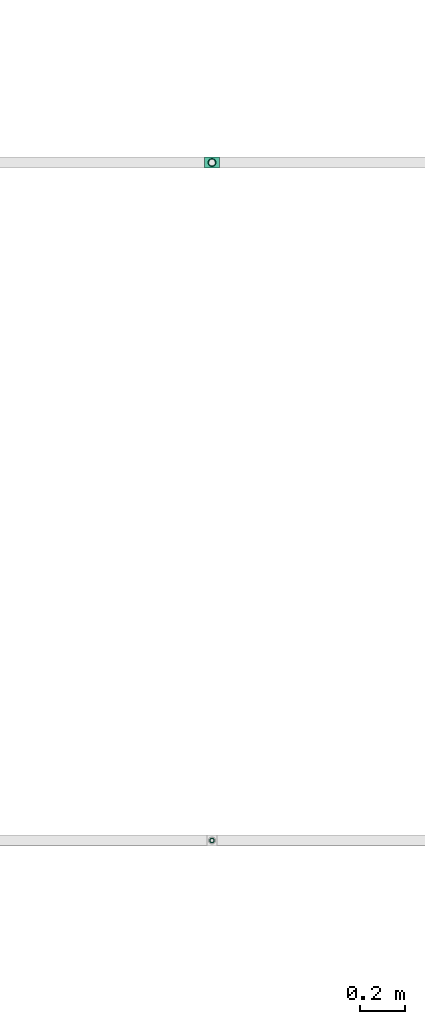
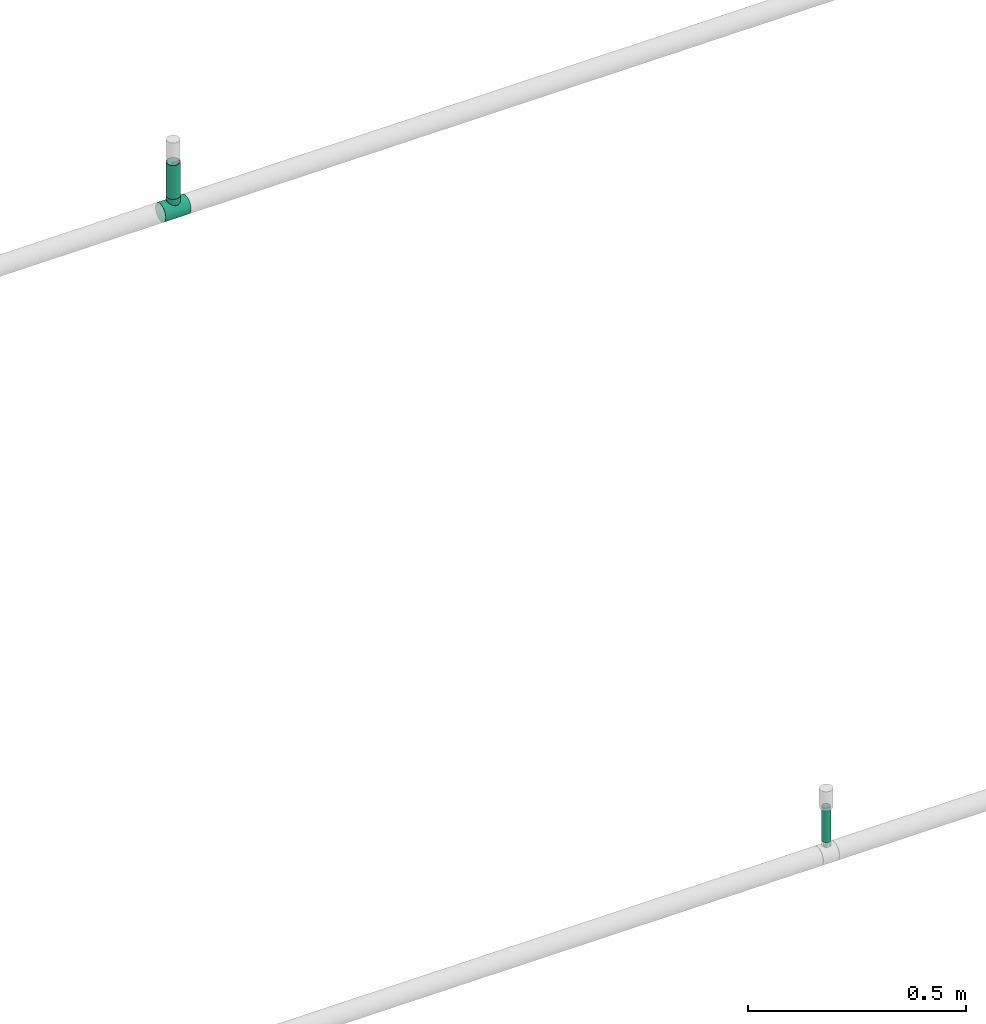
# One storey, part 3 of 14: 2 flow segments, 1 flow fitting.
"""IFC2X3 building model written with IfcOpenShell, lengths in millimetres."""

from ifc_helpers import new_model, entity, si_unit, converted_unit, derived_unit, direction, frame, origin_with_axes, origin_2d_with_axis, place, context, subcontext, project, spatial, hollow_circle, extrude, open_shell, surface_model, source, transform, mapped, type_object, element, save


model = new_model("IFC2X3")

# Units and contexts
model_context = context("Model", 3, precision=0.01, world=frame((0.0, 4.29681676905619e-09, 0.0)), true_north=direction((4.01073788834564e-13, 1.0)))
plan_context = context("Plan", 3, precision=0.01, world=frame((0.0, 4.29681676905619e-09, 0.0)), true_north=direction((4.01073788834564e-13, 1.0)))
body_context = subcontext(model_context, "Body", "Model", "MODEL_VIEW")
ifc_project = project(units=[converted_unit("PLANEANGLEUNIT", "DEGREE", entity("IfcPositiveLengthMeasure", 0.0174532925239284), si_unit("PLANEANGLEUNIT", "RADIAN"), dimensions=[0, 0, 0, 0, 0, 0, 0]), si_unit("AREAUNIT", "SQUARE_METRE"), si_unit("LENGTHUNIT", "METRE", prefix="MILLI"), si_unit("MASSUNIT", "GRAM", prefix="KILO"), si_unit("POWERUNIT", "WATT"), si_unit("PRESSUREUNIT", "PASCAL"), si_unit("FORCEUNIT", "NEWTON", prefix="KILO"), si_unit("ELECTRICVOLTAGEUNIT", "VOLT"), si_unit("ELECTRICCURRENTUNIT", "AMPERE"), si_unit("THERMODYNAMICTEMPERATUREUNIT", "DEGREE_CELSIUS"), si_unit("TIMEUNIT", "SECOND"), si_unit("VOLUMEUNIT", "CUBIC_METRE"), derived_unit("LINEARVELOCITYUNIT", [(si_unit("LENGTHUNIT", "METRE"), 1), (si_unit("TIMEUNIT", "SECOND"), -1)]), derived_unit("VOLUMETRICFLOWRATEUNIT", [(si_unit("VOLUMEUNIT", "CUBIC_METRE"), 1), (si_unit("TIMEUNIT", "SECOND"), -1)]), derived_unit("THERMALTRANSMITTANCEUNIT", [(si_unit("POWERUNIT", "WATT"), 1), (si_unit("THERMODYNAMICTEMPERATUREUNIT", "KELVIN"), -1), (si_unit("AREAUNIT", "SQUARE_METRE"), -1)]), derived_unit("SOUNDPRESSUREUNIT", [(si_unit("PRESSUREUNIT", "PASCAL"), 1)])], contexts=[model_context, plan_context])

# Site, building, storey
site_placement = place(None, frame((0.0, -4.29681676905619e-09, 0.0), z_axis=(0.0, 0.0, 1.0), x_axis=(1.0, 0.0, 0.0)))
site = spatial("IfcSite", under=ifc_project, at=site_placement, CompositionType="ELEMENT")
building_placement = place(site_placement, frame((0.0, 4.29681676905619e-09, 0.0), z_axis=(0.0, 0.0, 1.0), x_axis=(1.0, 0.0, 0.0)))
building = spatial("IfcBuilding", under=site, at=building_placement, Name="mc-building", CompositionType="ELEMENT")
storey_placement = place(building_placement, frame((0.0, 0.0, 204000.0), z_axis=(0.0, 0.0, 1.0), x_axis=(1.0, 0.0, 0.0)))
storey = spatial("IfcBuildingStorey", under=building, at=storey_placement, Name="Nivå D", CompositionType="ELEMENT", Elevation=204000.0)

# Flow fitting
pipe_fitting_type = type_object("IfcPipeFittingType", Name="magi_pipe_fe_tee_centric_90_NOR", PredefinedType="JUNCTION")
shared_shape_1 = source(origin_with_axes(), body_context, "Body", "SurfaceModel", [
    surface_model("IfcShellBasedSurfaceModel", [(-33.8, 0.0, -24.2), (-33.8, -6.26342, -23.37541), (-33.8, 6.26342, -23.37541), (-33.8, 12.1, -20.95781), (-33.8, 17.11198, -17.11198), (-33.8, 20.95781, -12.1), (-33.8, -23.37541, -6.26342), (-33.8, 23.37541, -6.26342), (-33.8, -17.11198, -17.11198), (-33.8, -20.95781, -12.1), (-33.8, -12.1, -20.95781), (-33.8, -24.2, 0.0), (-33.8, -23.37541, 6.26342), (-33.8, 20.95781, 12.1), (-33.8, 23.37541, 6.26342), (-33.8, 24.2, 0.0), (-33.8, 12.1, 20.95781), (-33.8, 17.11198, 17.11198), (-33.8, -17.11198, 17.11198), (-33.8, 6.26342, 23.37541), (-33.8, -20.95781, 12.1), (-33.8, -12.1, 20.95781), (-33.8, -6.26342, 23.37541), (-33.8, 0.0, 24.2), (33.8, 6.26342, -23.37541), (33.8, -6.26342, -23.37541), (33.8, 0.0, -24.2), (33.8, 17.11198, -17.11198), (33.8, 12.1, -20.95781), (33.8, -23.37541, -6.26342), (33.8, 20.95781, -12.1), (33.8, 23.37541, -6.26342), (33.8, -17.11198, -17.11198), (33.8, -12.1, -20.95781), (33.8, -20.95781, -12.1), (33.8, -24.2, 0.0), (33.8, 24.2, 0.0), (33.8, 23.37541, 6.26342), (33.8, 20.95781, 12.1), (33.8, -23.37541, 6.26342), (33.8, -17.11198, 17.11198), (33.8, 12.1, 20.95781), (33.8, 17.11198, 17.11198), (33.8, 6.26342, 23.37541), (33.8, -20.95781, 12.1), (33.8, -12.1, 20.95781), (33.8, 0.0, 24.2), (33.8, -6.26342, 23.37541), (15.81824, -23.45734, 5.94922), (16.9, -24.2, 0.0), (12.87025, -21.57947, 10.95293), (33.8, -19.0349, 14.60599), (8.52813, -19.30697, 14.59044), (3.03527, -17.5853, 16.6252), (-3.04044, -17.58619, 16.62425), (-8.52961, -19.30762, 14.58958), (-33.8, -19.0349, 14.60599), (-16.9, -24.2, 0.0), (-15.81885, -23.45775, 5.9476), (-12.87368, -21.58151, 10.9489), (3.03527, -17.5853, -16.6252), (33.8, -19.0349, -14.60599), (8.52813, -19.30697, -14.59044), (-8.52961, -19.30762, -14.58958), (-33.8, -19.0349, -14.60599), (12.87025, -21.57947, -10.95293), (-3.04044, -17.58619, -16.62425), (15.81824, -23.45734, -5.94922), (-12.87368, -21.58151, -10.9489), (-15.81885, -23.45775, -5.9476), (4.37404, -36.3, -16.32415), (-16.9, -36.3, 0.0), (0.0, -36.3, -16.9), (14.63583, -36.3, -8.45), (8.45, -36.3, -14.63583), (16.32415, -36.3, -4.37404), (11.9501, -36.3, -11.9501), (-11.9501, -36.3, -11.9501), (-8.45, -36.3, -14.63583), (-4.37404, -36.3, -16.32415), (-14.63583, -36.3, -8.45), (-16.32415, -36.3, -4.37404), (16.9, -36.3, 0.0), (8.45, -36.3, 14.63583), (16.32415, -36.3, 4.37404), (14.63583, -36.3, 8.45), (-8.45, -36.3, 14.63583), (11.9501, -36.3, 11.9501), (4.37404, -36.3, 16.32415), (-16.32415, -36.3, 4.37404), (-11.9501, -36.3, 11.9501), (-14.63583, -36.3, 8.45), (0.0, -36.3, 16.9), (-4.37404, -36.3, 16.32415), (-16.35943, -23.82888, 2.9738), (16.35912, -23.82867, 2.97461), (-0.00259, -17.58575, 16.62472), (16.35912, -23.82867, -2.97461), (-0.00259, -17.58575, -16.62472), (-16.35943, -23.82888, -2.9738)], [open_shell([[[0, 1, 2]], [[3, 2, 4]], [[5, 2, 6]], [[4, 2, 5]], [[7, 5, 6]], [[8, 9, 10]], [[1, 10, 9]], [[1, 9, 2]], [[9, 6, 2]], [[6, 11, 7]], [[11, 12, 7]], [[13, 14, 15]], [[13, 15, 12]], [[16, 17, 18]], [[12, 17, 13]], [[19, 16, 18]], [[20, 18, 12]], [[18, 17, 12]], [[21, 22, 18]], [[23, 18, 22]], [[18, 23, 19]], [[7, 12, 15]], [[24, 25, 26]], [[27, 24, 28]], [[29, 24, 30]], [[30, 24, 27]], [[29, 30, 31]], [[25, 32, 33]], [[32, 25, 34]], [[24, 34, 25]], [[24, 29, 34]], [[31, 35, 29]], [[31, 36, 35]], [[36, 37, 38]], [[39, 36, 38]], [[40, 38, 41]], [[41, 38, 42]], [[40, 41, 43]], [[39, 40, 44]], [[39, 38, 40]], [[45, 46, 47]], [[46, 45, 40]], [[43, 46, 40]], [[36, 39, 35]], [[35, 39, 48]], [[48, 49, 35]], [[39, 50, 48]], [[51, 40, 52]], [[52, 50, 44]], [[53, 52, 40]], [[54, 53, 21]], [[44, 50, 39]], [[55, 18, 56]], [[57, 58, 11]], [[12, 11, 58]], [[58, 59, 12]], [[55, 54, 18]], [[55, 20, 59]], [[20, 55, 56]], [[59, 20, 12]], [[18, 54, 21]], [[52, 44, 51]], [[53, 40, 45]], [[23, 47, 46]], [[22, 45, 47]], [[19, 46, 43]], [[38, 37, 14]], [[17, 41, 42]], [[13, 42, 38]], [[43, 41, 16]], [[15, 37, 36]], [[21, 45, 22]], [[22, 47, 23]], [[19, 23, 46]], [[43, 16, 19]], [[16, 41, 17]], [[13, 17, 42]], [[14, 13, 38]], [[37, 15, 14]], [[45, 21, 53]], [[5, 31, 30]], [[7, 36, 31]], [[4, 30, 27]], [[26, 25, 1]], [[2, 28, 24]], [[0, 24, 26]], [[27, 28, 3]], [[10, 25, 33]], [[15, 36, 7]], [[7, 31, 5]], [[4, 5, 30]], [[27, 3, 4]], [[3, 28, 2]], [[0, 2, 24]], [[1, 0, 26]], [[25, 10, 1]], [[33, 60, 10]], [[61, 34, 62]], [[63, 9, 64]], [[62, 60, 32]], [[34, 65, 62]], [[66, 10, 60]], [[29, 35, 67]], [[67, 65, 29]], [[49, 67, 35]], [[29, 65, 34]], [[66, 63, 8]], [[62, 32, 61]], [[64, 8, 63]], [[63, 68, 9]], [[8, 10, 66]], [[68, 69, 6]], [[69, 11, 6]], [[11, 69, 57]], [[68, 6, 9]], [[60, 33, 32]], [[70, 71, 72]], [[73, 70, 74]], [[73, 75, 70]], [[73, 74, 76]], [[71, 70, 75]], [[72, 77, 78]], [[78, 79, 72]], [[80, 71, 81]], [[77, 72, 80]], [[71, 80, 72]], [[75, 82, 71]], [[83, 82, 84]], [[83, 84, 85]], [[86, 71, 83]], [[83, 85, 87]], [[86, 83, 88]], [[89, 90, 91]], [[90, 89, 86]], [[86, 92, 93]], [[89, 71, 86]], [[88, 92, 86]], [[83, 71, 82]], [[89, 94, 71]], [[59, 91, 90]], [[89, 91, 58]], [[90, 86, 55]], [[89, 58, 94]], [[94, 57, 71]], [[58, 91, 59]], [[95, 48, 84]], [[55, 93, 54]], [[55, 59, 90]], [[92, 53, 96]], [[55, 86, 93]], [[53, 92, 88]], [[83, 52, 88]], [[87, 85, 50]], [[87, 52, 83]], [[48, 85, 84]], [[87, 50, 52]], [[52, 53, 88]], [[82, 95, 84]], [[48, 50, 85]], [[95, 82, 49]], [[92, 54, 93]], [[96, 54, 92]], [[75, 97, 82]], [[65, 73, 76]], [[75, 73, 67]], [[76, 74, 62]], [[97, 49, 82]], [[67, 73, 65]], [[62, 70, 60]], [[62, 65, 76]], [[72, 66, 98]], [[62, 74, 70]], [[99, 71, 57]], [[99, 69, 81]], [[75, 67, 97]], [[79, 66, 72]], [[69, 80, 81]], [[77, 80, 68]], [[72, 60, 70]], [[79, 63, 66]], [[63, 79, 78]], [[78, 77, 63]], [[63, 77, 68]], [[68, 80, 69]], [[71, 99, 81]], [[98, 60, 72]]])]),
])
flow_fitting_placement = place(storey_placement, frame((604600.0, 693802.46783, 6129.32644999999), z_axis=(0.0, -1.0, 0.0), x_axis=(-1.0, 0.0, 0.0)))
element("IfcFlowFitting", 1, at=flow_fitting_placement, inside=storey, type_object=pipe_fitting_type, Name="magi_pipe_fe_tee_centric_90_NOR", context=body_context, shape_type="MappedRepresentation", body=[
    mapped(shared_shape_1, transform((0.0, 0.0, 0.0), scale=1.0)),
])

# Flow segments
pipe_segment_type = type_object("IfcPipeSegmentType", Name="Stålrør normaltykke", PredefinedType="RIGIDSEGMENT")
shared_shape_2 = source(origin_with_axes(), body_context, "Body", "SweptSolid", [
    extrude(hollow_circle(Radius=10.7, WallThickness=2.0, at=origin_2d_with_axis()), frame((0.0, 0.0, 0.0), z_axis=(1.0, 0.0, 0.0), x_axis=(0.0, 1.0, 0.0)), (0.0, 0.0, 1.0), 96.7),
])
flow_segment_1_placement = place(storey_placement, frame((604600.0, 690802.46783, 6176.29999999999), z_axis=(0.0, 1.0, 0.0), x_axis=(0.0, 0.0, 1.0)))
element("IfcFlowSegment", 2, at=flow_segment_1_placement, inside=storey, type_object=pipe_segment_type, Name="Stålrør normaltykke", context=body_context, shape_type="MappedRepresentation", body=[
    mapped(shared_shape_2, transform((0.0, 0.0, 0.0), scale=1.0, scale2=1.0, scale3=1.0, uniform=False)),
])
shared_shape_3 = source(origin_with_axes(), body_context, "Body", "SweptSolid", [
    extrude(hollow_circle(Radius=16.9, WallThickness=2.0, at=origin_2d_with_axis()), frame((0.0, 0.0, 0.0), z_axis=(1.0, 0.0, 0.0), x_axis=(0.0, 1.0, 0.0)), (0.0, 0.0, 1.0), 95.0),
])
flow_segment_2_placement = place(storey_placement, frame((604600.0, 693802.46783, 6165.62645000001), z_axis=(0.0, 1.0, 0.0), x_axis=(0.0, 0.0, 1.0)))
element("IfcFlowSegment", 3, at=flow_segment_2_placement, inside=storey, type_object=pipe_segment_type, Name="Stålrør normaltykke", context=body_context, shape_type="MappedRepresentation", body=[
    mapped(shared_shape_3, transform((0.0, 0.0, 0.0), scale=1.0)),
])

save(model, "model.ifc")
